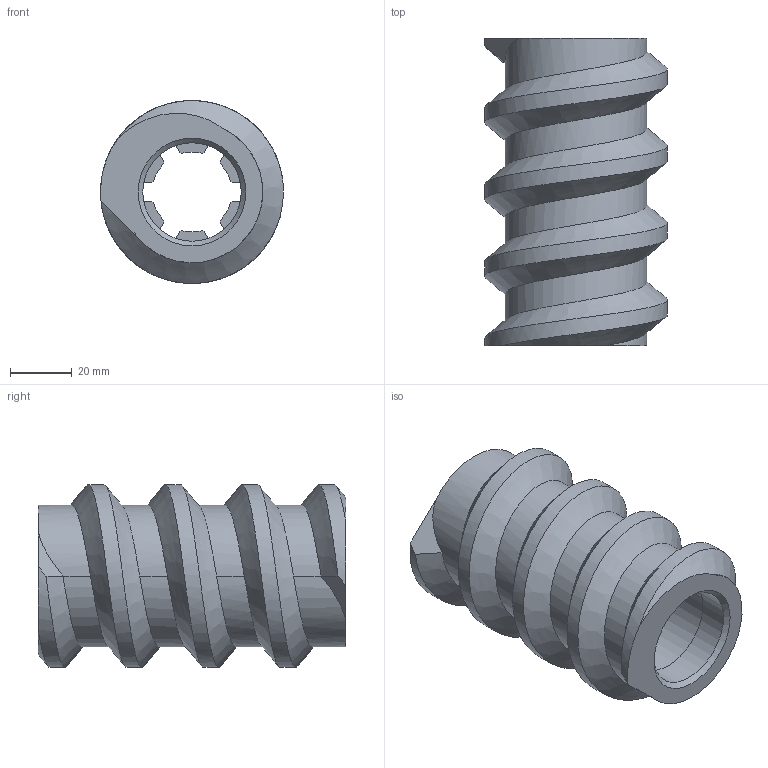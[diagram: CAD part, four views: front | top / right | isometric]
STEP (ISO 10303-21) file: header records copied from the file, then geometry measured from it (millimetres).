
FILE_DESCRIPTION(/* description */ ('Шнек подающий'),/* implementation_level */ '2;1');
FILE_NAME(/* name */ 'F:\ПРОЕКТЫ\Рабочие\В_работе\АВАНГАРД\Амарант\КД\Пресс_3\ПИЖМ.723581.011.stp',/* time_stamp */ '2019-07-11T09:41:33+03:00',/* author */ ('Cemen'),/* organization */ ('ОАО "Авангард"'),/* preprocessor_version */ 'ST-DEVELOPER v17.2',/* originating_system */ 'Autodesk Inventor 2019',/* authorisation */ '');
FILE_SCHEMA (('AUTOMOTIVE_DESIGN { 1 0 10303 214 3 1 1 }'));
Length unit declared in the file: millimetre
Products named in the file (1): ПИЖМ.723581.011
Bounding box: 59.5 x 100 x 59.49 mm (x, y, z)
Volume: 130288 mm3; surface area: 33617.7 mm2
Topology: 1 solids, 1 shells, 73 faces, 199 edges, 132 vertices
Faces by surface type: cylinder 38, plane 32, bspline 2, cone 1
Full cylindrical faces by diameter (mm): 2 x2, 32 x1, 33 x1, 46 x3, 59.5 x3
Entity records: 3282 total; most frequent: CARTESIAN_POINT 1365, ORIENTED_EDGE 398, DIRECTION 389, EDGE_CURVE 199, AXIS2_PLACEMENT_3D 138, VERTEX_POINT 132, LINE 113, VECTOR 113
